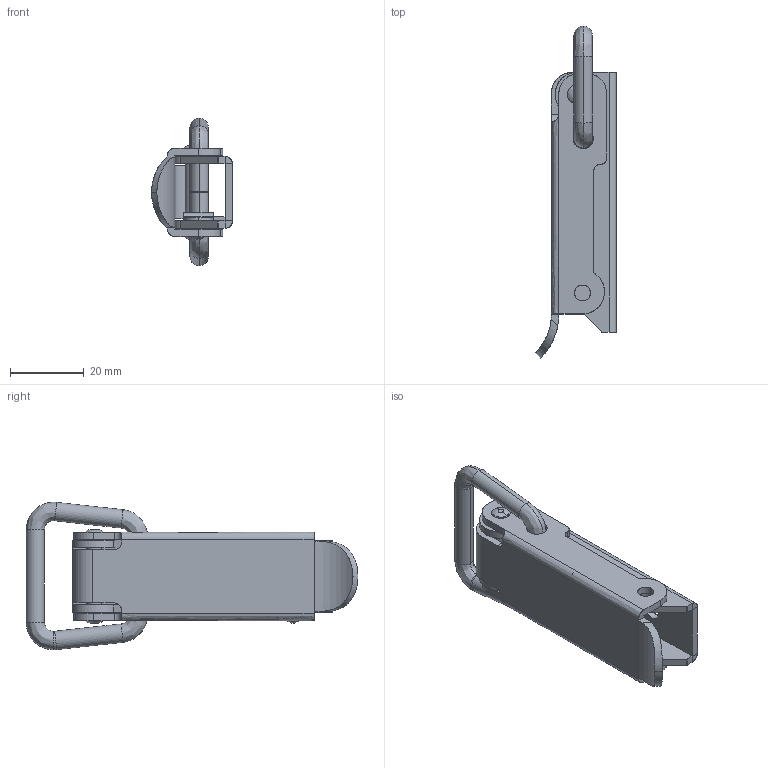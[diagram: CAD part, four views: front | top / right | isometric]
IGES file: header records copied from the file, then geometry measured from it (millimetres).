
Start section: SolidWorks IGES FILE using analytic representation for surfaces
Global section: file name: C:\Documents and Settings\lecoutey\Bureau\GO 32\GO 32.IGS; native system: SolidWorks 2004 by SolidWorks Corporation; preprocessor: Version 5.3; author: lecoutey; date: 050329.094112; units: millimetre
Bounding box: 21.9 x 90.01 x 40.02 mm (x, y, z)
Surface area: 15734.8 mm2 (no closed solid volume)
Topology: 0 solids, 0 shells, 203 faces, 2722 edges, 2691 vertices
Faces by surface type: revolution 118, bspline 85
